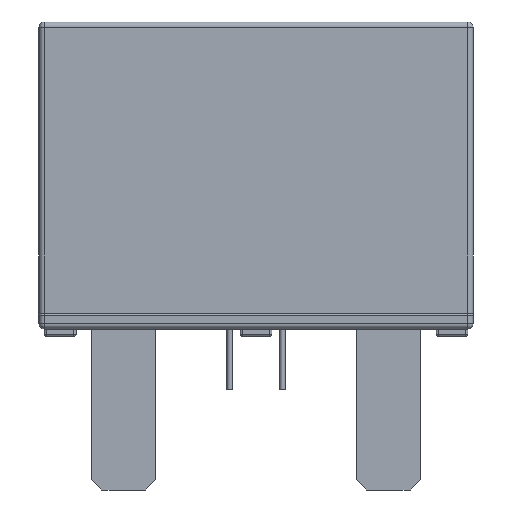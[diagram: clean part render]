
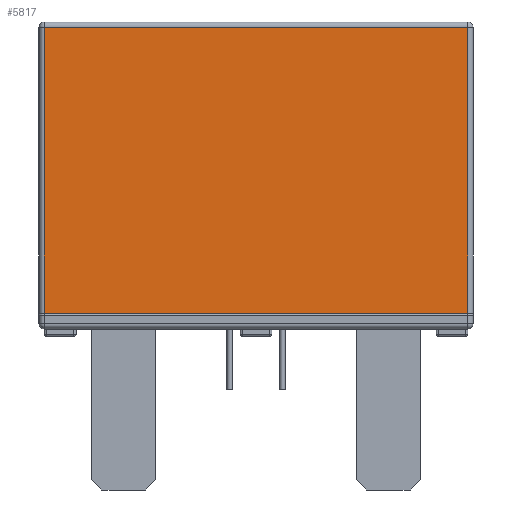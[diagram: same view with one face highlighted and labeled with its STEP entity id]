
A CAD part, front view. The second image highlights one B-rep face of the part: STEP entity #5817.
In plain terms, the highlighted planar face has unit normal (0, -1, 0).
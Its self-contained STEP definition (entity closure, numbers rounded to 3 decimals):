
#582=DIRECTION('',(1.,0.,0.));
#583=VECTOR('',#582,40.);
#584=CARTESIAN_POINT('',(-20.,-8.25,1.5));
#585=LINE('',#584,#583);
#739=DIRECTION('',(1.,0.,0.));
#740=VECTOR('',#739,40.);
#741=CARTESIAN_POINT('',(-20.,-8.25,28.5));
#742=LINE('',#741,#740);
#746=DIRECTION('',(0.,0.,1.));
#747=VECTOR('',#746,27.);
#748=CARTESIAN_POINT('',(-20.,-8.25,1.5));
#749=LINE('',#748,#747);
#777=DIRECTION('',(0.,0.,1.));
#778=VECTOR('',#777,27.);
#779=CARTESIAN_POINT('',(20.,-8.25,1.5));
#780=LINE('',#779,#778);
#4966=CARTESIAN_POINT('',(-20.,-8.25,1.5));
#4967=VERTEX_POINT('',#4966);
#4968=CARTESIAN_POINT('',(20.,-8.25,1.5));
#4969=VERTEX_POINT('',#4968);
#5168=CARTESIAN_POINT('',(-20.,-8.25,28.5));
#5169=VERTEX_POINT('',#5168);
#5172=CARTESIAN_POINT('',(20.,-8.25,28.5));
#5173=VERTEX_POINT('',#5172);
#5804=CARTESIAN_POINT('',(-20.,-8.25,1.5));
#5805=DIRECTION('',(0.,-1.,0.));
#5806=DIRECTION('',(1.,0.,0.));
#5807=AXIS2_PLACEMENT_3D('',#5804,#5805,#5806);
#5808=PLANE('',#5807);
#5810=ORIENTED_EDGE('',*,*,#5809,.T.);
#5812=ORIENTED_EDGE('',*,*,#5811,.F.);
#5813=ORIENTED_EDGE('',*,*,#5597,.F.);
#5814=ORIENTED_EDGE('',*,*,#5796,.T.);
#5815=EDGE_LOOP('',(#5810,#5812,#5813,#5814));
#5816=FACE_OUTER_BOUND('',#5815,.F.);
#5817=ADVANCED_FACE('',(#5816),#5808,.T.);
#5597=EDGE_CURVE('',#4967,#4969,#585,.T.);
#5796=EDGE_CURVE('',#4967,#5169,#749,.T.);
#5809=EDGE_CURVE('',#5169,#5173,#742,.T.);
#5811=EDGE_CURVE('',#4969,#5173,#780,.T.);
